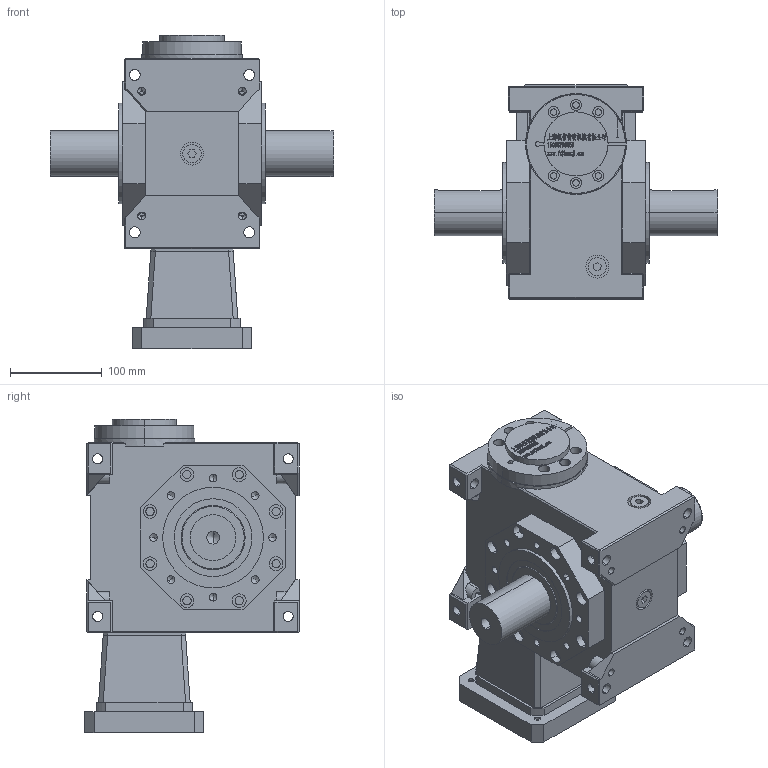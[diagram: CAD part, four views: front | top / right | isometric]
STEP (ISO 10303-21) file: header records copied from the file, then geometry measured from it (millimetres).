
FILE_DESCRIPTION (( 'STEP AP203' ), '1' );
FILE_NAME ('FXLB075-(5~90)-AB-22-110-145-M8.step', '2022-11-06T06:34:01', ( '' ), ( '' ), 'SwSTEP 2.0', 'SolidWorks 2020', '' );
FILE_SCHEMA (( 'CONFIG_CONTROL_DESIGN' ));
Length unit declared in the file: millimetre
Products named in the file (8): JDLB075-ST105________1.step; ST130-110-145-M8____________.step; FXLB075-(5~90)-AB-22-110-145-M8; 錨璃272^FXLB075-(5~90)-AB-22-110-145-M8; JDLB075-CR____.step; FXLB075-(5~90)-AB-22-110-145-M8.step; ______BD68-73.3-24-22____.step; JDLB075-AB________50.step
Assembly tree (7 placements, depth 3):
  FXLB075-(5~90)-AB-22-110-145-M8
    FXLB075-(5~90)-AB-22-110-145-M8.step
      JDLB075-CR____.step
      JDLB075-ST105________1.step
      ST130-110-145-M8____________.step
      ______BD68-73.3-24-22____.step
      JDLB075-AB________50.step
    錨璃272^FXLB075-(5~90)-AB-22-110-145-M8
Bounding box: 310 x 234 x 342.2 mm (x, y, z)
Volume: 7379072.6 mm3; surface area: 608936.7 mm2
Topology: 82 solids, 82 shells, 2702 faces, 7063 edges, 4606 vertices
Faces by surface type: plane 1547, bspline 572, cylinder 459, cone 106, torus 18
Entity records: 113786 total; most frequent: CARTESIAN_POINT 49923, ORIENTED_EDGE 13998, DIRECTION 11027, EDGE_CURVE 6999, VECTOR 4765, LINE 4765, VERTEX_POINT 4606, AXIS2_PLACEMENT_3D 3131
